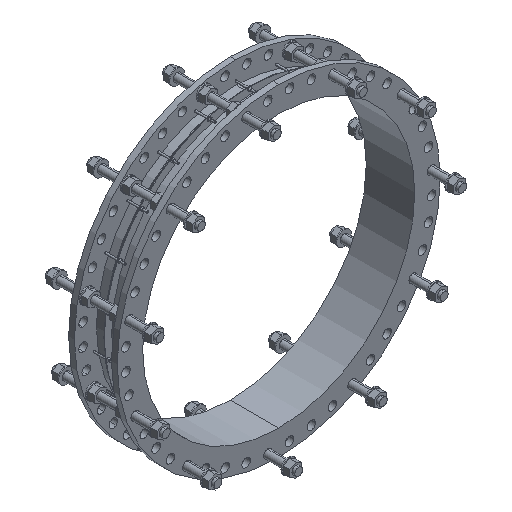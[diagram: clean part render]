
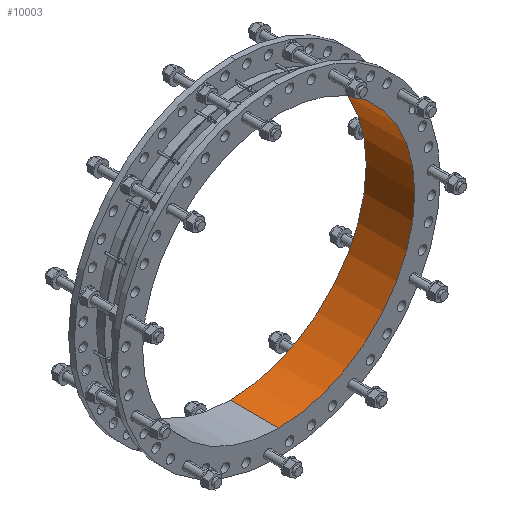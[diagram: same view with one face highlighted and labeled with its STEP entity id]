
A CAD part, isometric view. The second image highlights one B-rep face of the part: STEP entity #10003.
In plain terms, the highlighted cylindrical face has radius 897 mm (diameter 1794 mm), a partial arc.
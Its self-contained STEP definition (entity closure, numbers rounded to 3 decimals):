
#7=DIRECTION('',(0.,-1.,0.));
#8=VECTOR('',#7,320.);
#9=CARTESIAN_POINT('',(0.,0.,-897.));
#10=LINE('',#9,#8);
#11=CARTESIAN_POINT('',(0.,0.,0.));
#12=DIRECTION('',(0.,-1.,0.));
#13=DIRECTION('',(0.,0.,-1.));
#14=AXIS2_PLACEMENT_3D('',#11,#12,#13);
#16=DIRECTION('',(0.,-1.,0.));
#17=VECTOR('',#16,320.);
#18=CARTESIAN_POINT('',(0.,0.,897.));
#19=LINE('',#18,#17);
#3024=CARTESIAN_POINT('',(0.,-320.,0.));
#3025=DIRECTION('',(0.,-1.,0.));
#3026=DIRECTION('',(0.,0.,-1.));
#3027=AXIS2_PLACEMENT_3D('',#3024,#3025,#3026);
#8066=CARTESIAN_POINT('',(0.,0.,-897.));
#8067=CARTESIAN_POINT('',(0.,-320.,-897.));
#8068=VERTEX_POINT('',#8066);
#8069=VERTEX_POINT('',#8067);
#8086=CARTESIAN_POINT('',(0.,0.,897.));
#8087=CARTESIAN_POINT('',(0.,-320.,897.));
#8088=VERTEX_POINT('',#8086);
#8089=VERTEX_POINT('',#8087);
#9990=CARTESIAN_POINT('',(0.,-336.,0.));
#9991=DIRECTION('',(0.,1.,0.));
#9992=DIRECTION('',(0.,0.,-1.));
#9993=AXIS2_PLACEMENT_3D('',#9990,#9991,#9992);
#9994=CYLINDRICAL_SURFACE('',#9993,897.);
#9995=ORIENTED_EDGE('',*,*,#9979,.F.);
#9997=ORIENTED_EDGE('',*,*,#9996,.T.);
#9998=ORIENTED_EDGE('',*,*,#9983,.T.);
#10000=ORIENTED_EDGE('',*,*,#9999,.F.);
#10001=EDGE_LOOP('',(#9995,#9997,#9998,#10000));
#10002=FACE_OUTER_BOUND('',#10001,.F.);
#10003=ADVANCED_FACE('',(#10002),#9994,.F.);
#15=CIRCLE('',#14,897.);
#3028=CIRCLE('',#3027,897.);
#9979=EDGE_CURVE('',#8068,#8069,#10,.T.);
#9983=EDGE_CURVE('',#8088,#8089,#19,.T.);
#9996=EDGE_CURVE('',#8068,#8088,#15,.T.);
#9999=EDGE_CURVE('',#8069,#8089,#3028,.T.);
